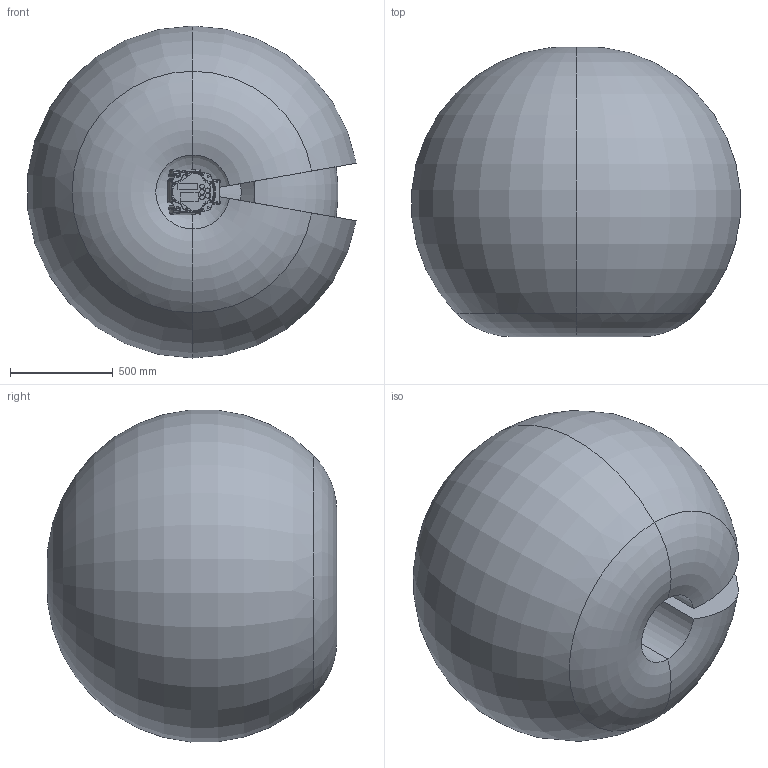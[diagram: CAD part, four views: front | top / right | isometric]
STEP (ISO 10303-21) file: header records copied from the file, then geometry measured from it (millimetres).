
FILE_DESCRIPTION (( 'STEP AP214' ), '1' );
FILE_NAME ('Racer5-0.80 SE-PLUG (3D-STEP).STEP', '2022-09-26T15:11:19', ( '' ), ( '' ), 'SwSTEP 2.0', 'SolidWorks 2020', '' );
FILE_SCHEMA (( 'AUTOMOTIVE_DESIGN' ));
Length unit declared in the file: millimetre
Products named in the file (11): Operation Area Racer5-0.80 SE-PLUG; Racer5-0.80 SE-PLUG_p01; Racer5-0.80 SE-PLUG_p06; Racer5-0.80 SE-PLUG (3D-STEP); Racer5-0.80 SE-PLUG_p07; Racer5-0.80 SE-PLUG_p04; Racer5-0.80 SE-PLUG_p08; Racer5-0.80 SE-PLUG_p09; Racer5-0.80 SE-PLUG_p03; Racer5-0.80 SE-PLUG_p05; Racer5-0.80 SE-PLUG_p02
Assembly tree (10 placements, depth 2):
  Racer5-0.80 SE-PLUG (3D-STEP)
    Racer5-0.80 SE-PLUG_p01
    Racer5-0.80 SE-PLUG_p02
    Racer5-0.80 SE-PLUG_p03
    Racer5-0.80 SE-PLUG_p04
    Racer5-0.80 SE-PLUG_p05
    Racer5-0.80 SE-PLUG_p06
    Racer5-0.80 SE-PLUG_p07
    Racer5-0.80 SE-PLUG_p08
    Racer5-0.80 SE-PLUG_p09
    Operation Area Racer5-0.80 SE-PLUG
Bounding box: 1596.85 x 1408.23 x 1613.53 mm (x, y, z)
Volume: 1919402159.5 mm3; surface area: 11970374 mm2
Topology: 36 solids, 42 shells, 5491 faces, 13974 edges, 8694 vertices
Faces by surface type: bspline 2161, cylinder 1425, plane 1196, cone 324, torus 290, sphere 95
Entity records: 624817 total; most frequent: CARTESIAN_POINT 508798, ORIENTED_EDGE 27670, DIRECTION 18447, EDGE_CURVE 13835, VERTEX_POINT 8689, AXIS2_PLACEMENT_3D 7364, EDGE_LOOP 5926, B_SPLINE_CURVE_WITH_KNOTS 5841
